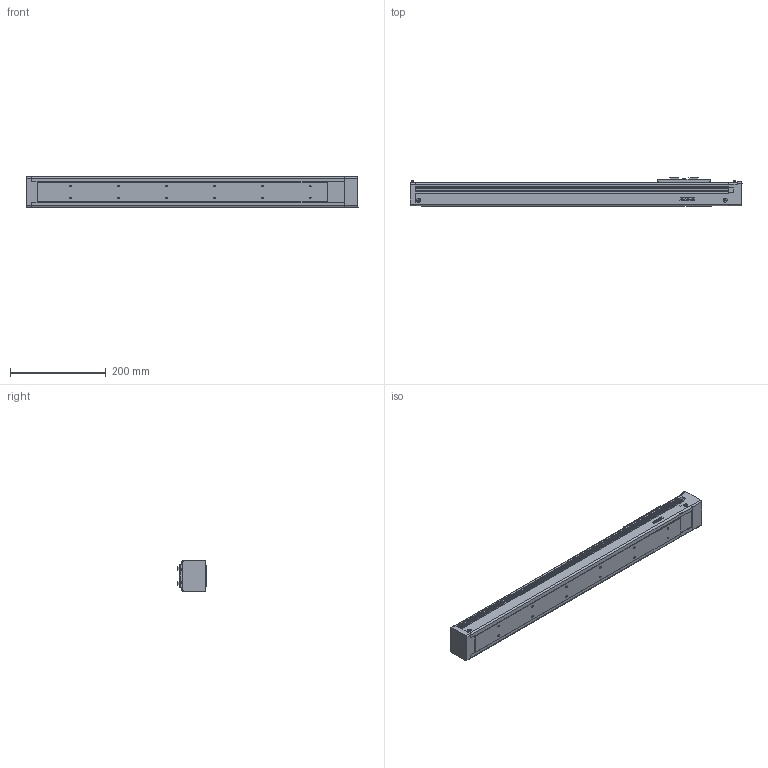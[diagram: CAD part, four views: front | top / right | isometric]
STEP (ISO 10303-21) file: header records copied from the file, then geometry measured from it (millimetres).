
FILE_DESCRIPTION(/* description */ (''),/* implementation_level */ '2;1');
FILE_NAME(/* name */ 'D:\混合母檔20191031\混和母檔\混和母檔\bin\Debug\Download\3D\KE655C-500AF0\KE655C-500AF0.stp',/* time_stamp */ '2019-11-04T13:49:11+08:00',/* author */ ('user'),/* organization */ (''),/* preprocessor_version */ 'ST-DEVELOPER v16.13',/* originating_system */ 'Autodesk Inventor 2018',/* authorisation */ '');
FILE_SCHEMA (('AUTOMOTIVE_DESIGN { 1 0 10303 214 3 1 1 }'));
Length unit declared in the file: millimetre
Products named in the file (3): KE655C-500AF0; KE65-F0-BP; KE65-SL
Assembly tree (2 placements, depth 2):
  KE655C-500AF0
    KE65-F0-BP
    KE65-SL
Bounding box: 692 x 60 x 64.57 mm (x, y, z)
Volume: 2048962.8 mm3; surface area: 219913.1 mm2
Topology: 2 solids, 17 shells, 1088 faces, 2948 edges, 1932 vertices
Faces by surface type: plane 581, cone 166, cylinder 141, bspline 136, torus 54, sphere 10
Full cylindrical faces by diameter (mm): 2.459 x8, 2.729 x4, 3 x4, 3.242 x8, 3.5 x6, 3.571 x4, 4.134 x12, 4.2 x4, 6 x1, 8 x1, 8.4 x8, 30 x1
Entity records: 39543 total; most frequent: CARTESIAN_POINT 12931, ORIENTED_EDGE 5460, DIRECTION 4930, EDGE_CURVE 2730, VERTEX_POINT 1857, LINE 1652, VECTOR 1652, AXIS2_PLACEMENT_3D 1639
